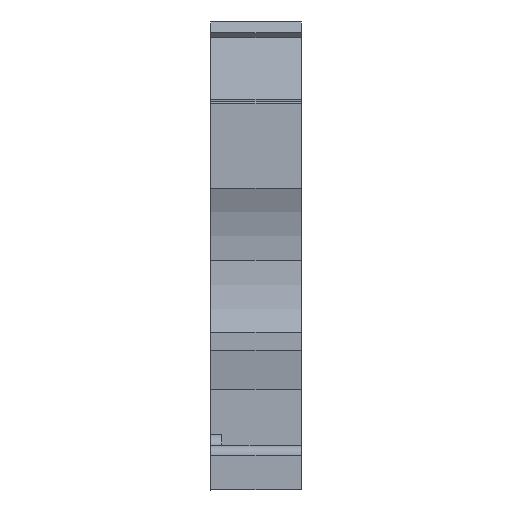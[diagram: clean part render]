
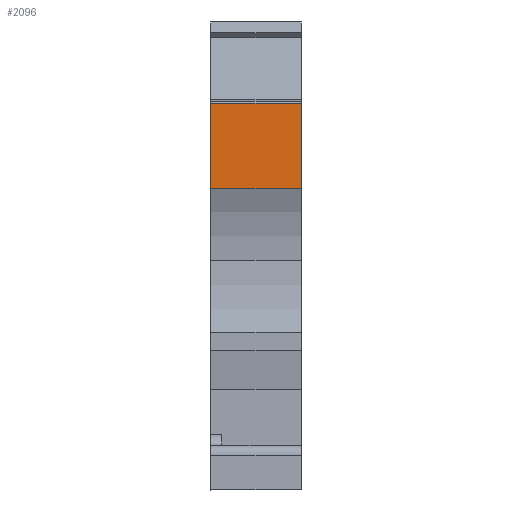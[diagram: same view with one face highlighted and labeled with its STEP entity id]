
A CAD part, front view. The second image highlights one B-rep face of the part: STEP entity #2096.
In plain terms, the highlighted planar face has unit normal (0, -1, 0).
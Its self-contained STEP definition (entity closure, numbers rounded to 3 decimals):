
#426=CARTESIAN_POINT('',(-0.,-0.,27.2));
#427=VERTEX_POINT('',#426);
#435=CARTESIAN_POINT('',(-0.,-0.,34.884));
#436=VERTEX_POINT('',#435);
#437=CARTESIAN_POINT('',(-0.,-0.,27.2));
#438=DIRECTION('',(-0.,0.,1.));
#439=VECTOR('',#438,7.684);
#440=LINE('',#437,#439);
#441=EDGE_CURVE('',#427,#436,#440,.T.);
#1478=CARTESIAN_POINT('',(8.15,-0.,34.884));
#1479=VERTEX_POINT('',#1478);
#1486=CARTESIAN_POINT('',(8.15,-0.,27.2));
#1487=VERTEX_POINT('',#1486);
#1488=CARTESIAN_POINT('',(8.15,-0.,34.884));
#1489=DIRECTION('',(0.,-0.,-1.));
#1490=VECTOR('',#1489,7.684);
#1491=LINE('',#1488,#1490);
#1492=EDGE_CURVE('',#1479,#1487,#1491,.T.);
#2075=CARTESIAN_POINT('',(8.15,-0.,27.2));
#2076=DIRECTION('',(0.,1.,-0.));
#2077=DIRECTION('',(-0.,0.,1.));
#2078=AXIS2_PLACEMENT_3D('',#2075,#2076,#2077);
#2079=PLANE('',#2078);
#2080=CARTESIAN_POINT('',(8.15,-0.,34.884));
#2081=DIRECTION('',(-1.,0.,-0.));
#2082=VECTOR('',#2081,8.15);
#2083=LINE('',#2080,#2082);
#2084=EDGE_CURVE('',#1479,#436,#2083,.T.);
#2085=ORIENTED_EDGE('',*,*,#2084,.T.);
#2086=ORIENTED_EDGE('',*,*,#441,.F.);
#2087=CARTESIAN_POINT('',(8.15,-0.,27.2));
#2088=DIRECTION('',(-1.,0.,-0.));
#2089=VECTOR('',#2088,8.15);
#2090=LINE('',#2087,#2089);
#2091=EDGE_CURVE('',#1487,#427,#2090,.T.);
#2092=ORIENTED_EDGE('',*,*,#2091,.F.);
#2093=ORIENTED_EDGE('',*,*,#1492,.F.);
#2094=EDGE_LOOP('',(#2085,#2086,#2092,#2093));
#2095=FACE_BOUND('',#2094,.T.);
#2096=ADVANCED_FACE('',(#2095),#2079,.F.);
